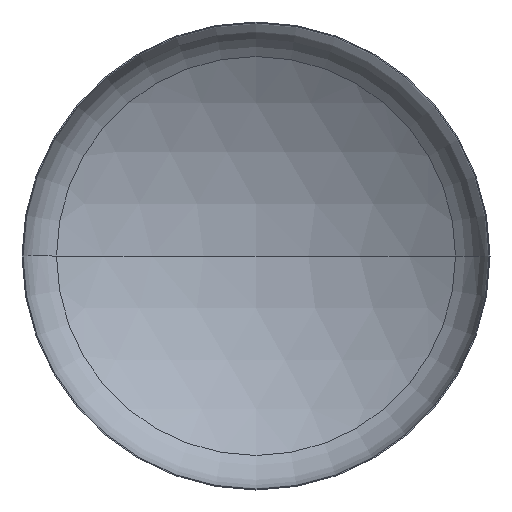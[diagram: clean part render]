
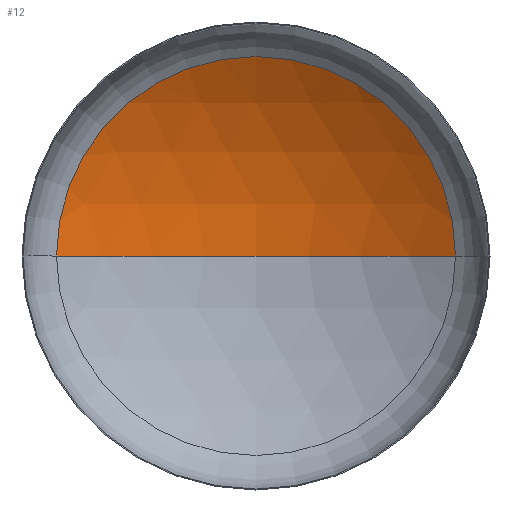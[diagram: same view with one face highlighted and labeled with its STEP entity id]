
A CAD part, front view. The second image highlights one B-rep face of the part: STEP entity #12.
In plain terms, the highlighted spherical face has radius 4400 mm.
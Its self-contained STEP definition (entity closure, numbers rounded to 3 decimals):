
#5 = AXIS2_PLACEMENT_3D ( 'NONE', #114, #319, #147 ) ;
#7 = DIRECTION ( 'NONE',  ( 1., 0., 0. ) ) ;
#12 = ADVANCED_FACE ( 'NONE', ( #120 ), #95, .F. ) ;
#21 = DIRECTION ( 'NONE',  ( -1., 0., 0. ) ) ;
#22 = ORIENTED_EDGE ( 'NONE', *, *, #388, .F. ) ;
#41 = DIRECTION ( 'NONE',  ( 0., -1., 0. ) ) ;
#51 = AXIS2_PLACEMENT_3D ( 'NONE', #235, #41, #265 ) ;
#57 = VERTEX_POINT ( 'NONE', #220 ) ;
#95 = SPHERICAL_SURFACE ( 'NONE', #278, 4400. ) ;
#112 = CIRCLE ( 'NONE', #51, 2344.191 ) ;
#114 = CARTESIAN_POINT ( 'NONE',  ( 0., -2968.453, 0. ) ) ;
#120 = FACE_OUTER_BOUND ( 'NONE', #227, .T. ) ;
#138 = ORIENTED_EDGE ( 'NONE', *, *, #371, .T. ) ;
#147 = DIRECTION ( 'NONE',  ( -1., 0., 0. ) ) ;
#164 = AXIS2_PLACEMENT_3D ( 'NONE', #381, #310, #7 ) ;
#168 = CARTESIAN_POINT ( 'NONE',  ( 2344.191, 755.089, 0. ) ) ;
#220 = CARTESIAN_POINT ( 'NONE',  ( 0., 1431.547, 0. ) ) ;
#227 = EDGE_LOOP ( 'NONE', ( #22, #264, #138 ) ) ;
#235 = CARTESIAN_POINT ( 'NONE',  ( 0., 755.089, 0. ) ) ;
#246 = DIRECTION ( 'NONE',  ( 0., 0., -1. ) ) ;
#256 = CARTESIAN_POINT ( 'NONE',  ( -2344.191, 755.089, 0. ) ) ;
#264 = ORIENTED_EDGE ( 'NONE', *, *, #379, .T. ) ;
#265 = DIRECTION ( 'NONE',  ( 1., 0., 0. ) ) ;
#270 = CIRCLE ( 'NONE', #5, 4400. ) ;
#278 = AXIS2_PLACEMENT_3D ( 'NONE', #393, #246, #21 ) ;
#287 = VERTEX_POINT ( 'NONE', #256 ) ;
#294 = VERTEX_POINT ( 'NONE', #168 ) ;
#310 = DIRECTION ( 'NONE',  ( 0., 0., 1. ) ) ;
#319 = DIRECTION ( 'NONE',  ( 0., 0., -1. ) ) ;
#337 = CIRCLE ( 'NONE', #164, 4400. ) ;
#371 = EDGE_CURVE ( 'NONE', #294, #287, #112, .T. ) ;
#379 = EDGE_CURVE ( 'NONE', #57, #294, #270, .T. ) ;
#381 = CARTESIAN_POINT ( 'NONE',  ( 0., -2968.453, 0. ) ) ;
#388 = EDGE_CURVE ( 'NONE', #57, #287, #337, .T. ) ;
#393 = CARTESIAN_POINT ( 'NONE',  ( 0., -2968.453, 0. ) ) ;
